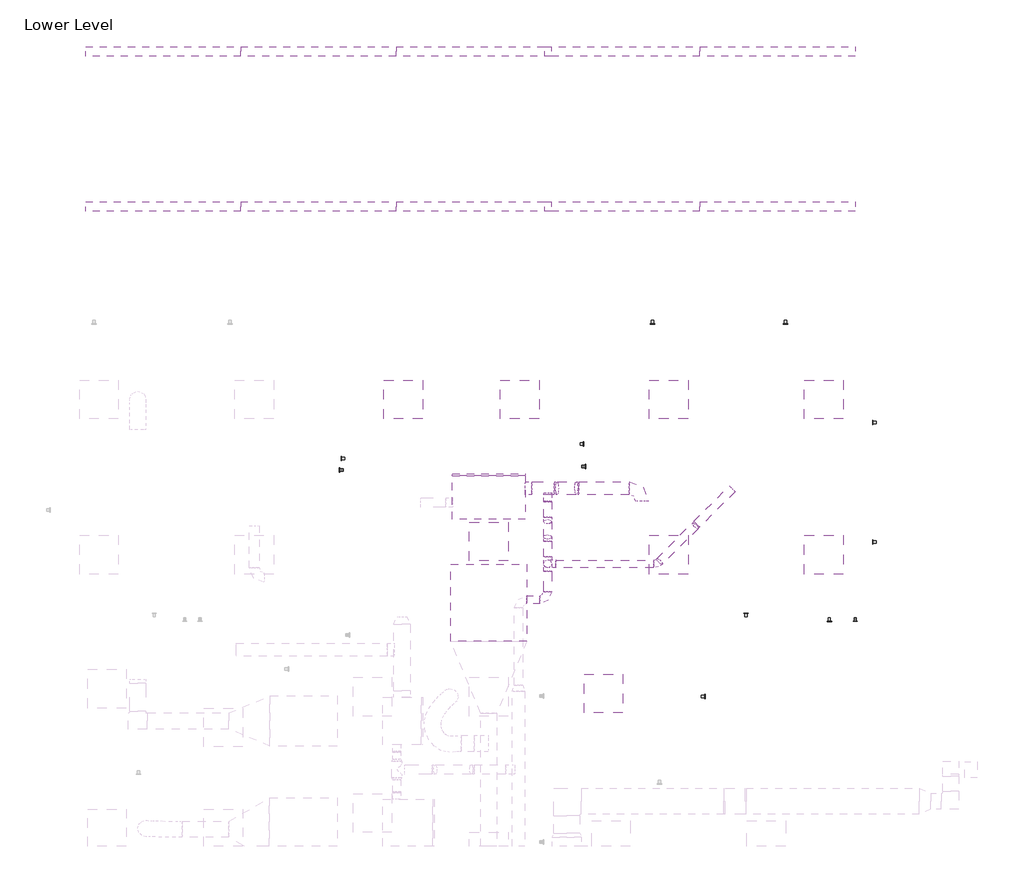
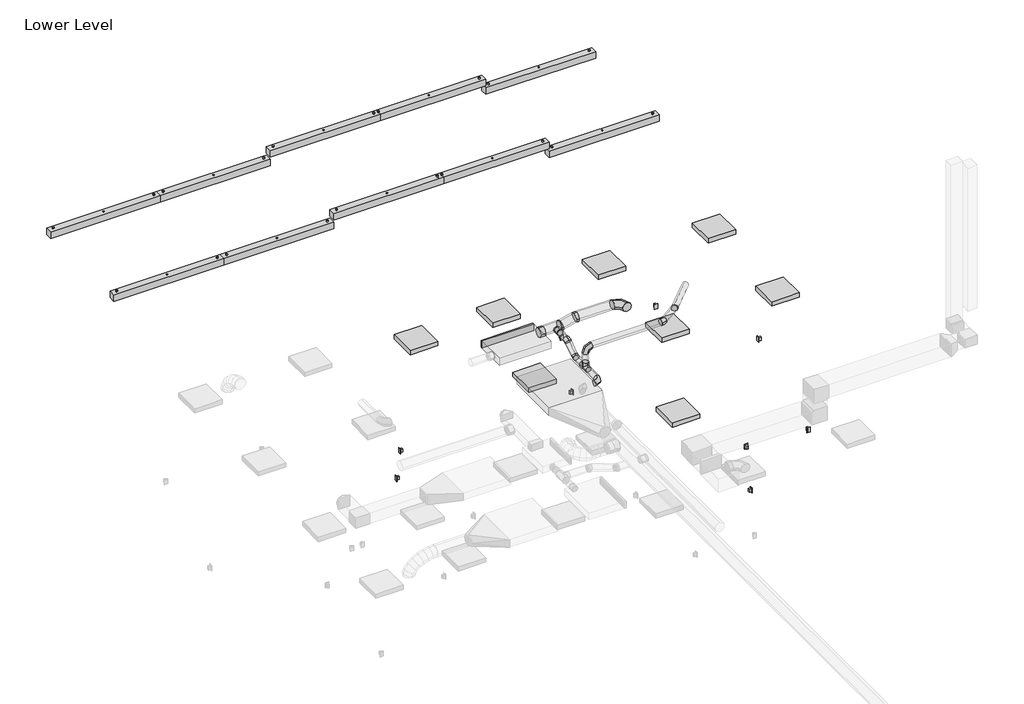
# One storey, part 4 of 4: 18 light fixtures, 14 duct segments, 13 duct fittings, 10 proxies, 3 switching devices.
"""IFC4 building model written with IfcOpenShell, lengths in millimetres."""

from ifc_helpers import new_model, si_unit, point, frame, frame_2d, origin, place, context, project, spatial, polyline, circle_curve, trimmed, segment, composite_curve, outline, extrude, transform, mapped, element, save
from components import mechanical_equipment_142123ad, duplex_receptacle_countertop_10251bba, rectangular_endcap_standard_4dcbd564, round_elbow_1_d_a253342a, round_elbow_1_d_c80420c1, round_elbow_1_d_50cd346b, round_elbow_1_d_92dd7378, round_elbow_1_d_adaedb42, round_elbow_1_d_ad049c3c, round_takeoff_standard_1127d77f, round_takeoff_standard_272bb003, round_tee_standard_ef45fe1c, suspended_fluorescent_strip_non_hosted_exterior_strip_light_cd59f7f1, troffer_corner_insert_2x2_3lamp_e67c7f8f

model = new_model("IFC4")

# Units and contexts
model_context = context("Model", 3, world=origin())
ifc_project = project(units=[si_unit("LENGTHUNIT", "METRE", prefix="MILLI")], contexts=[model_context])

# Site, building, storey
site = spatial("IfcSite", under=ifc_project)
building = spatial("IfcBuilding", under=site)
storey = spatial("IfcBuildingStorey", under=building, Name="Lower Level", Elevation=29972.0)

# Proxies
placement = place(None, origin())
mechanical_equipment_shape = mechanical_equipment_142123ad(model_context)
element("IfcBuildingElementProxy", 1, Name="DOAS Supply to Return Connection : DOAS Supply to Return Duct Connection", ObjectType="DOAS Supply to Return Connection : DOAS Supply to Return Duct Connection", at=placement, inside=storey, context=model_context, shape_type="MappedRepresentation", body=[
    mapped(mechanical_equipment_shape, transform((-12681.344811, 11699.3127622, 33121.6), x_axis=(0.0, -1.0000000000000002, 0.0), y_axis=(1.0000000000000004, 0.0, 0.0), z_axis=(0.0, 0.0, 1.0000000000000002))),
])
duplex_receptacle_countertop_shape = duplex_receptacle_countertop_10251bba(model_context)
element("IfcBuildingElementProxy", 2, Name="Duplex Receptacle : GFCI", ObjectType="Duplex Receptacle : GFCI", at=placement, inside=storey, context=model_context, shape_type="MappedRepresentation", body=[
    mapped(duplex_receptacle_countertop_shape, transform((-8256.1170491, 9811.7445005, 30429.2), x_axis=(1.0, 0.0, 0.0), y_axis=(0.0, 0.0, 1.0), z_axis=(0.0, -1.0, 0.0))),
])
element("IfcBuildingElementProxy", 3, Name="Duplex Receptacle : GFCI", ObjectType="Duplex Receptacle : GFCI", at=placement, inside=storey, context=model_context, shape_type="MappedRepresentation", body=[
    mapped(duplex_receptacle_countertop_shape, transform((-10209.8454607, 8630.2082884, 30429.2), x_axis=(0.0, 1.0, 0.0), y_axis=(0.0, 0.0, 1.0), z_axis=(1.0, 0.0, 0.0))),
])
element("IfcBuildingElementProxy", 4, Name="Duplex Receptacle : Standard", ObjectType="Duplex Receptacle : Standard", at=placement, inside=storey, context=model_context, shape_type="MappedRepresentation", body=[
    mapped(duplex_receptacle_countertop_shape, transform((-9566.6933679, 9935.5695005, 30429.2), x_axis=(-1.0, 0.0, 0.0), y_axis=(0.0, 0.0, 1.0), z_axis=(0.0, 1.0, 0.0))),
])
element("IfcBuildingElementProxy", 5, Name="Duplex Receptacle : Standard", ObjectType="Duplex Receptacle : Standard", at=placement, inside=storey, context=model_context, shape_type="MappedRepresentation", body=[
    mapped(duplex_receptacle_countertop_shape, transform((-7571.4204607, 11058.6291144, 30429.2), x_axis=(0.0, -1.0, 0.0), y_axis=(0.0, 0.0, 1.0), z_axis=(-1.0, 0.0, 0.0))),
])
element("IfcBuildingElementProxy", 6, Name="Duplex Receptacle : Standard", ObjectType="Duplex Receptacle : Standard", at=placement, inside=storey, context=model_context, shape_type="MappedRepresentation", body=[
    mapped(duplex_receptacle_countertop_shape, transform((-7571.4204607, 12931.5067489, 30429.2), x_axis=(0.0, -1.0, 0.0), y_axis=(0.0, 0.0, 1.0), z_axis=(-1.0, 0.0, 0.0))),
])
element("IfcBuildingElementProxy", 7, Name="Duplex Receptacle : Standard", ObjectType="Duplex Receptacle : Standard", at=placement, inside=storey, context=model_context, shape_type="MappedRepresentation", body=[
    mapped(duplex_receptacle_countertop_shape, transform((-8943.7287516, 14482.1695005, 30734.0), x_axis=(1.0, 0.0, 0.0), y_axis=(0.0, 0.0, 1.0), z_axis=(0.0, -1.0, 0.0))),
])
element("IfcBuildingElementProxy", 8, Name="Duplex Receptacle : Standard", ObjectType="Duplex Receptacle : Standard", at=placement, inside=storey, context=model_context, shape_type="MappedRepresentation", body=[
    mapped(duplex_receptacle_countertop_shape, transform((-11032.6434003, 14482.1695005, 30734.0), x_axis=(1.0, 0.0, 0.0), y_axis=(0.0, 0.0, 1.0), z_axis=(0.0, -1.0, 0.0))),
])
element("IfcBuildingElementProxy", 9, Name="Duplex Receptacle : Standard", ObjectType="Duplex Receptacle : Standard", at=placement, inside=storey, context=model_context, shape_type="MappedRepresentation", body=[
    mapped(duplex_receptacle_countertop_shape, transform((-12118.0204607, 12596.1305438, 30429.2), x_axis=(0.0, 1.0, 0.0), y_axis=(0.0, 0.0, 1.0), z_axis=(1.0, 0.0, 0.0))),
])
element("IfcBuildingElementProxy", 10, Name="Duplex Receptacle : Standard", ObjectType="Duplex Receptacle : Standard", at=placement, inside=storey, context=model_context, shape_type="MappedRepresentation", body=[
    mapped(duplex_receptacle_countertop_shape, transform((-15921.6704607, 12366.1582889, 30429.2), x_axis=(0.0, -1.0, 0.0), y_axis=(0.0, 0.0, 1.0), z_axis=(-1.0, 0.0, 0.0))),
])

# Duct fittings
rectangular_endcap_standard_shape = rectangular_endcap_standard_4dcbd564(model_context)
element("IfcDuctFitting", 11, ObjectType="Rectangular Endcap : Standard", at=placement, inside=storey, context=model_context, shape_type="MappedRepresentation", body=[
    mapped(rectangular_endcap_standard_shape, transform((-13605.5079607, 12098.6958297, 33121.5991366), x_axis=(0.0, 0.9999999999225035, 1.2449615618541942e-05), y_axis=(-1.0, 0.0, 0.0), z_axis=(0.0, -1.2449615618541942e-05, 0.9999999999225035))),
])
round_elbow_1_d_shape = round_elbow_1_d_a253342a(model_context)
element("IfcDuctFitting", 12, ObjectType="Round Elbow : 1 D", at=placement, inside=storey, context=model_context, shape_type="MappedRepresentation", body=[
    mapped(round_elbow_1_d_shape, transform((-11194.8892107, 11902.5127622, 33197.8), x_axis=(0.0, 1.0, 0.0), y_axis=(-1.0, 0.0, 0.0), z_axis=(0.0, 0.0, 1.0))),
])
round_elbow_1_d_2_shape = round_elbow_1_d_c80420c1(model_context)
element("IfcDuctFitting", 13, ObjectType="Round Elbow : 1 D", at=placement, inside=storey, context=model_context, shape_type="MappedRepresentation", body=[
    mapped(round_elbow_1_d_2_shape, transform((-12681.344811, 10147.8938374, 32918.4), x_axis=(1.0, 0.0, 0.0), y_axis=(0.0, 1.0, 0.0), z_axis=(0.0, 0.0, 1.0))),
])
element("IfcDuctFitting", 14, ObjectType="Round Elbow : 1 D", at=placement, inside=storey, context=model_context, shape_type="MappedRepresentation", body=[
    mapped(round_elbow_1_d_2_shape, transform((-12681.344811, 10713.399285, 33371.4045654), x_axis=(0.0, 0.0, 1.0), y_axis=(1.0, 0.0, 0.0), z_axis=(0.0, 1.0, 0.0))),
])
round_elbow_1_d_3_shape = round_elbow_1_d_50cd346b(model_context)
element("IfcDuctFitting", 15, ObjectType="Round Elbow : 1 D", at=placement, inside=storey, context=model_context, shape_type="MappedRepresentation", body=[
    mapped(round_elbow_1_d_3_shape, transform((-12681.344811, 11102.4899507, 32918.4), x_axis=(0.0, 1.0, 0.0), y_axis=(0.0, 0.0, 1.0), z_axis=(1.0, 0.0, 0.0))),
])
element("IfcDuctFitting", 16, ObjectType="Round Elbow : 1 D", at=placement, inside=storey, context=model_context, shape_type="MappedRepresentation", body=[
    mapped(round_elbow_1_d_3_shape, transform((-12681.344811, 11408.1197884, 33121.6), x_axis=(0.0, 0.832745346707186, 0.5536561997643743), y_axis=(0.0, 0.5536561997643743, -0.832745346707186), z_axis=(-1.0, 0.0, 0.0))),
])
round_elbow_1_d_4_shape = round_elbow_1_d_92dd7378(model_context)
element("IfcDuctFitting", 17, ObjectType="Round Elbow : 1 D", at=placement, inside=storey, context=model_context, shape_type="MappedRepresentation", body=[
    mapped(round_elbow_1_d_4_shape, transform((-10350.267801, 11323.544011, 33114.0593852), x_axis=(-0.7071067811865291, -0.7071067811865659, 0.0), y_axis=(0.0, 0.0, 1.0), z_axis=(-0.7071067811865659, 0.7071067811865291, 0.0))),
])
round_elbow_1_d_5_shape = round_elbow_1_d_adaedb42(model_context)
element("IfcDuctFitting", 18, ObjectType="Round Elbow : 1 D", at=placement, inside=storey, context=model_context, shape_type="MappedRepresentation", body=[
    mapped(round_elbow_1_d_5_shape, transform((-10960.412527, 10713.399285, 33371.4045654), x_axis=(1.0, 0.0, 0.0), y_axis=(0.0, 0.921396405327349, -0.3886240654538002), z_axis=(0.0, 0.3886240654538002, 0.921396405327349))),
])
round_elbow_1_d_6_shape = round_elbow_1_d_ad049c3c(model_context)
element("IfcDuctFitting", 19, ObjectType="Round Elbow : 1 D", at=placement, inside=storey, context=model_context, shape_type="MappedRepresentation", body=[
    mapped(round_elbow_1_d_6_shape, transform((-12553.9579607, 11902.5127622, 33121.6), x_axis=(1.0, 0.0, 0.0), y_axis=(0.0, 0.0, 1.0), z_axis=(0.0, -1.0, 0.0))),
])
element("IfcDuctFitting", 20, ObjectType="Round Elbow : 1 D", at=placement, inside=storey, context=model_context, shape_type="MappedRepresentation", body=[
    mapped(round_elbow_1_d_6_shape, transform((-12210.8892107, 11902.5127622, 33197.8), x_axis=(-1.0, 0.0, 0.0), y_axis=(0.0, 0.0, -1.0), z_axis=(0.0, -1.0, 0.0))),
])
round_takeoff_standard_shape = round_takeoff_standard_1127d77f(model_context)
element("IfcDuctFitting", 21, ObjectType="Round Takeoff : Standard", at=placement, inside=storey, context=model_context, shape_type="MappedRepresentation", body=[
    mapped(round_takeoff_standard_shape, transform((-13030.2079607, 11902.5127622, 33121.6), x_axis=(1.0, 0.0, 0.0), y_axis=(0.0, -1.0, 0.0), z_axis=(0.0, 0.0, -1.0))),
])
round_takeoff_standard_2_shape = round_takeoff_standard_272bb003(model_context)
element("IfcDuctFitting", 22, ObjectType="Round Takeoff : Standard", at=placement, inside=storey, context=model_context, shape_type="MappedRepresentation", body=[
    mapped(round_takeoff_standard_2_shape, transform((-12681.344811, 11800.9127622, 33121.6), x_axis=(0.0, -1.0, 0.0), y_axis=(-1.0, 0.0, 0.0), z_axis=(0.0, 0.0, -1.0))),
])
round_tee_standard_shape = round_tee_standard_ef45fe1c(model_context)
element("IfcDuctFitting", 23, ObjectType="Round Tee : Standard", at=placement, inside=storey, context=model_context, shape_type="MappedRepresentation", body=[
    mapped(round_tee_standard_shape, transform((-12681.344811, 10713.399285, 32918.4), x_axis=(0.0, 1.0, 0.0), y_axis=(0.0, 0.0, -1.0000000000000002), z_axis=(-1.0000000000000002, 0.0, 0.0))),
])

# Duct segments
element("IfcDuctSegment", 24, ObjectType="Mitered Elbows / Taps", at=placement, inside=storey, context=model_context, shape_type="SweptSolid", body=[
    extrude(outline(polyline([(-13010.2079607, 9497.2083308), (-14200.8079607, 9497.2083308), (-14200.8079607, 10705.4194302), (-13010.2079607, 10705.4194302), (-13010.2079607, 9497.2083308)])), frame((0.0, 0.0, 33041.465625), z_axis=(0.0, 0.0, 1.0), x_axis=(1.0, 0.0, 0.0)), (0.0, 0.0, 1.0), 169.0),
])
element("IfcDuctSegment", 25, ObjectType="Mitered Elbows / Taps", at=placement, inside=storey, context=model_context, shape_type="SweptSolid", body=[
    extrude(outline(polyline([(0.0, -1150.6), (0.0, 0.0), (683.6848949, 0.0), (683.6848949, -1150.6), (0.0, -1150.6)])), frame((-13030.2079607, 12098.6968244, 33041.6991366), z_axis=(0.0, -1.2449615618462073e-05, 0.9999999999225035), x_axis=(0.0, -0.9999999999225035, -1.2449615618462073e-05)), (0.0, 0.0, 1.0), 159.8),
])
element("IfcDuctSegment", 26, ObjectType="Taps / Short Radius", at=placement, inside=storey, context=model_context, shape_type="SweptSolid", body=[
    extrude(outline(composite_curve([segment(trimmed(circle_curve(frame_2d((11902.5127622, 33121.6)), 101.6), [point((12004.1127622, 33121.6))], [point((11902.5127622, 33020.0))], False, "CARTESIAN"), True, "CONTINUOUS"), segment(trimmed(circle_curve(frame_2d((11902.5127622, 33121.6)), 101.6), [point((11902.5127622, 33020.0))], [point((11800.9127622, 33121.6))], False, "CARTESIAN"), True, "CONTINUOUS"), segment(trimmed(circle_curve(frame_2d((11902.5127622, 33121.6)), 101.6), [point((11800.9127622, 33121.6))], [point((11902.5127622, 33223.2))], False, "CARTESIAN"), True, "CONTINUOUS"), segment(trimmed(circle_curve(frame_2d((11902.5127622, 33121.6)), 101.6), [point((11902.5127622, 33223.2))], [point((12004.1127622, 33121.6))], False, "CARTESIAN"), True, "CONTINUOUS")], self_intersect=False)), frame((-12928.6079607, 0.0, 0.0), z_axis=(1.0, 0.0, 0.0), x_axis=(0.0, 1.0, 0.0)), (0.0, 0.0, 1.0), 352.3549939),
])
element("IfcDuctSegment", 27, ObjectType="Taps / Short Radius", at=placement, inside=storey, context=model_context, shape_type="SweptSolid", body=[
    extrude(outline(composite_curve([segment(trimmed(circle_curve(frame_2d((32918.4, -12681.344811)), 63.5), [point((32918.4, -12744.844811))], [point((32854.9, -12681.344811))], False, "CARTESIAN"), True, "CONTINUOUS"), segment(trimmed(circle_curve(frame_2d((32918.4, -12681.344811)), 63.5), [point((32854.9, -12681.344811))], [point((32918.4, -12617.844811))], False, "CARTESIAN"), True, "CONTINUOUS"), segment(trimmed(circle_curve(frame_2d((32918.4, -12681.344811)), 63.5), [point((32918.4, -12617.844811))], [point((32981.9, -12681.344811))], False, "CARTESIAN"), True, "CONTINUOUS"), segment(trimmed(circle_curve(frame_2d((32918.4, -12681.344811)), 63.5), [point((32981.9, -12681.344811))], [point((32918.4, -12744.844811))], False, "CARTESIAN"), True, "CONTINUOUS")], self_intersect=False)), frame((0.0, 10274.8938374, 0.0), z_axis=(0.0, 1.0, 0.0), x_axis=(0.0, 0.0, 1.0)), (0.0, 0.0, 1.0), 324.2054476),
])
element("IfcDuctSegment", 28, ObjectType="Taps / Short Radius", at=placement, inside=storey, context=model_context, shape_type="SweptSolid", body=[
    extrude(outline(composite_curve([segment(trimmed(circle_curve(frame_2d((10147.8938374, 32918.4)), 63.5), [point((10211.3938374, 32918.4))], [point((10147.8938374, 32854.9))], False, "CARTESIAN"), True, "CONTINUOUS"), segment(trimmed(circle_curve(frame_2d((10147.8938374, 32918.4)), 63.5), [point((10147.8938374, 32854.9))], [point((10084.3938374, 32918.4))], False, "CARTESIAN"), True, "CONTINUOUS"), segment(trimmed(circle_curve(frame_2d((10147.8938374, 32918.4)), 63.5), [point((10084.3938374, 32918.4))], [point((10147.8938374, 32981.9))], False, "CARTESIAN"), True, "CONTINUOUS"), segment(trimmed(circle_curve(frame_2d((10147.8938374, 32918.4)), 63.5), [point((10147.8938374, 32981.9))], [point((10211.3938374, 32918.4))], False, "CARTESIAN"), True, "CONTINUOUS")], self_intersect=False)), frame((-13011.544811, 0.0, 0.0), z_axis=(1.0, 0.0, 0.0), x_axis=(0.0, 1.0, 0.0)), (0.0, 0.0, 1.0), 203.2),
])
element("IfcDuctSegment", 29, ObjectType="Taps / Short Radius", at=placement, inside=storey, context=model_context, shape_type="SweptSolid", body=[
    extrude(outline(composite_curve([segment(trimmed(circle_curve(frame_2d((32918.4, -12681.344811)), 63.5), [point((32918.4, -12617.844811))], [point((32981.9, -12681.344811))], False, "CARTESIAN"), True, "CONTINUOUS"), segment(trimmed(circle_curve(frame_2d((32918.4, -12681.344811)), 63.5), [point((32981.9, -12681.344811))], [point((32918.4, -12744.844811))], False, "CARTESIAN"), True, "CONTINUOUS"), segment(trimmed(circle_curve(frame_2d((32918.4, -12681.344811)), 63.5), [point((32918.4, -12744.844811))], [point((32854.9, -12681.344811))], False, "CARTESIAN"), True, "CONTINUOUS"), segment(trimmed(circle_curve(frame_2d((32918.4, -12681.344811)), 63.5), [point((32854.9, -12681.344811))], [point((32918.4, -12617.844811))], False, "CARTESIAN"), True, "CONTINUOUS")], self_intersect=False)), frame((0.0, 10827.699285, 0.0), z_axis=(0.0, 1.0, 0.0), x_axis=(0.0, 0.0, 1.0)), (0.0, 0.0, 1.0), 236.4250861),
])
element("IfcDuctSegment", 30, ObjectType="Taps / Short Radius", at=placement, inside=storey, context=model_context, shape_type="SweptSolid", body=[
    extrude(outline(composite_curve([segment(trimmed(circle_curve(frame_2d((0.0, 63.4999999)), 63.5), [point((63.5, 63.4999999))], [point((0.0, 0.0))], False, "CARTESIAN"), True, "CONTINUOUS"), segment(trimmed(circle_curve(frame_2d((0.0, 63.4999999)), 63.5), [point((0.0, 0.0))], [point((-63.5, 63.4999999))], False, "CARTESIAN"), True, "CONTINUOUS"), segment(trimmed(circle_curve(frame_2d((0.0, 63.4999999)), 63.5), [point((-63.5, 63.4999999))], [point((0.0, 126.9999999))], False, "CARTESIAN"), True, "CONTINUOUS"), segment(trimmed(circle_curve(frame_2d((0.0, 63.4999999)), 63.5), [point((0.0, 126.9999999))], [point((63.5, 63.4999999))], False, "CARTESIAN"), True, "CONTINUOUS")], self_intersect=False)), frame((-12681.344811, 11099.2815399, 32992.5206705), z_axis=(1.4799828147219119e-12, 0.8327453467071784, 0.5536561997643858), x_axis=(1.0, -1.2292389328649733e-12, 0.0)), (0.0, 0.0, 1.0), 290.2836058),
])
element("IfcDuctSegment", 31, ObjectType="Taps / Short Radius", at=placement, inside=storey, context=model_context, shape_type="SweptSolid", body=[
    extrude(outline(composite_curve([segment(trimmed(circle_curve(frame_2d((33121.6, -12681.344811)), 63.5), [point((33121.6, -12617.844811))], [point((33185.1, -12681.344811))], False, "CARTESIAN"), True, "CONTINUOUS"), segment(trimmed(circle_curve(frame_2d((33121.6, -12681.344811)), 63.5), [point((33185.1, -12681.344811))], [point((33121.6, -12744.844811))], False, "CARTESIAN"), True, "CONTINUOUS"), segment(trimmed(circle_curve(frame_2d((33121.6, -12681.344811)), 63.5), [point((33121.6, -12744.844811))], [point((33058.1, -12681.344811))], False, "CARTESIAN"), True, "CONTINUOUS"), segment(trimmed(circle_curve(frame_2d((33121.6, -12681.344811)), 63.5), [point((33058.1, -12681.344811))], [point((33121.6, -12617.844811))], False, "CARTESIAN"), True, "CONTINUOUS")], self_intersect=False)), frame((0.0, 11446.4853679, 0.0), z_axis=(0.0, 1.0, 0.0), x_axis=(0.0, 0.0, 1.0)), (0.0, 0.0, 1.0), 240.1273943),
])
element("IfcDuctSegment", 32, ObjectType="Taps / Short Radius", at=placement, inside=storey, context=model_context, shape_type="SweptSolid", body=[
    extrude(outline(composite_curve([segment(trimmed(circle_curve(frame_2d((-12681.344811, 10713.399285)), 63.5), [point((-12681.344811, 10649.899285))], [point((-12744.844811, 10713.399285))], False, "CARTESIAN"), True, "CONTINUOUS"), segment(trimmed(circle_curve(frame_2d((-12681.344811, 10713.399285)), 63.5), [point((-12744.844811, 10713.399285))], [point((-12681.344811, 10776.899285))], False, "CARTESIAN"), True, "CONTINUOUS"), segment(trimmed(circle_curve(frame_2d((-12681.344811, 10713.399285)), 63.5), [point((-12681.344811, 10776.899285))], [point((-12617.844811, 10713.399285))], False, "CARTESIAN"), True, "CONTINUOUS"), segment(trimmed(circle_curve(frame_2d((-12681.344811, 10713.399285)), 63.5), [point((-12617.844811, 10713.399285))], [point((-12681.344811, 10649.899285))], False, "CARTESIAN"), True, "CONTINUOUS")], self_intersect=False)), frame((0.0, 0.0, 33032.7), z_axis=(0.0, 0.0, 1.0), x_axis=(1.0, 0.0, 0.0)), (0.0, 0.0, 1.0), 211.7045654),
])
element("IfcDuctSegment", 33, ObjectType="Taps / Short Radius", at=placement, inside=storey, context=model_context, shape_type="SweptSolid", body=[
    extrude(outline(composite_curve([segment(trimmed(circle_curve(frame_2d((0.0, -63.5)), 63.5), [point((-63.5, -63.5))], [point((0.0, 0.0))], False, "CARTESIAN"), True, "CONTINUOUS"), segment(trimmed(circle_curve(frame_2d((0.0, -63.5)), 63.5), [point((0.0, 0.0))], [point((63.5, -63.5))], False, "CARTESIAN"), True, "CONTINUOUS"), segment(trimmed(circle_curve(frame_2d((0.0, -63.5)), 63.5), [point((63.5, -63.5))], [point((0.0, -127.0))], False, "CARTESIAN"), True, "CONTINUOUS"), segment(trimmed(circle_curve(frame_2d((0.0, -63.5)), 63.5), [point((0.0, -127.0))], [point((-63.5, -63.5))], False, "CARTESIAN"), True, "CONTINUOUS")], self_intersect=False)), frame((-10337.1616074, 11336.6502046, 33050.5593852), z_axis=(0.7071067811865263, 0.7071067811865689, 0.0), x_axis=(0.7071067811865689, -0.7071067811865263, 0.0)), (0.0, 0.0, 1.0), 785.0995942),
])
element("IfcDuctSegment", 34, ObjectType="Taps / Short Radius", at=placement, inside=storey, context=model_context, shape_type="SweptSolid", body=[
    extrude(outline(composite_curve([segment(trimmed(circle_curve(frame_2d((0.0, 63.5000001)), 63.5), [point((17.4497182, 124.5553629))], [point((61.0553628, 46.0502819))], False, "CARTESIAN"), True, "CONTINUOUS"), segment(trimmed(circle_curve(frame_2d((0.0, 63.5000001)), 63.5), [point((61.0553628, 46.0502819))], [point((-17.4497182, 2.4446372))], False, "CARTESIAN"), True, "CONTINUOUS"), segment(trimmed(circle_curve(frame_2d((0.0, 63.5000001)), 63.5), [point((-17.4497182, 2.4446372))], [point((-61.0553629, 80.9497183))], False, "CARTESIAN"), True, "CONTINUOUS"), segment(trimmed(circle_curve(frame_2d((0.0, 63.5000001)), 63.5), [point((-61.0553629, 80.9497183))], [point((17.4497182, 124.5553629))], False, "CARTESIAN"), True, "CONTINUOUS")], self_intersect=False)), frame((-10362.8273199, 11286.306864, 33060.8480331), z_axis=(-0.6776125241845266, -0.6776125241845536, 0.28580156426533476), x_axis=(0.735419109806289, -0.6243497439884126, 0.2633365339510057)), (0.0, 0.0, 1.0), 826.2248131),
])
element("IfcDuctSegment", 35, ObjectType="Taps / Short Radius", at=placement, inside=storey, context=model_context, shape_type="SweptSolid", body=[
    extrude(outline(composite_curve([segment(trimmed(circle_curve(frame_2d((10713.399285, 33371.4045654)), 63.5), [point((10738.0769132, 33429.9132371))], [point((10771.9079568, 33346.7269372))], False, "CARTESIAN"), True, "CONTINUOUS"), segment(trimmed(circle_curve(frame_2d((10713.399285, 33371.4045654)), 63.5), [point((10771.9079568, 33346.7269372))], [point((10688.7216569, 33312.8958937))], False, "CARTESIAN"), True, "CONTINUOUS"), segment(trimmed(circle_curve(frame_2d((10713.399285, 33371.4045654)), 63.5), [point((10688.7216569, 33312.8958937))], [point((10654.8906133, 33396.0821936))], False, "CARTESIAN"), True, "CONTINUOUS"), segment(trimmed(circle_curve(frame_2d((10713.399285, 33371.4045654)), 63.5), [point((10654.8906133, 33396.0821936))], [point((10738.0769132, 33429.9132371))], False, "CARTESIAN"), True, "CONTINUOUS")], self_intersect=False)), frame((-12554.344811, 0.0, 0.0), z_axis=(1.0, 0.0, 0.0), x_axis=(0.0, 1.0, 0.0)), (0.0, 0.0, 1.0), 1538.258983),
])
element("IfcDuctSegment", 36, ObjectType="Taps / Short Radius", at=placement, inside=storey, context=model_context, shape_type="SweptSolid", body=[
    extrude(outline(composite_curve([segment(trimmed(circle_curve(frame_2d((11902.5127622, 33197.8)), 101.6), [point((12004.1127622, 33197.8))], [point((11902.5127622, 33096.2))], False, "CARTESIAN"), True, "CONTINUOUS"), segment(trimmed(circle_curve(frame_2d((11902.5127622, 33197.8)), 101.6), [point((11902.5127622, 33096.2))], [point((11800.9127622, 33197.8))], False, "CARTESIAN"), True, "CONTINUOUS"), segment(trimmed(circle_curve(frame_2d((11902.5127622, 33197.8)), 101.6), [point((11800.9127622, 33197.8))], [point((11902.5127622, 33299.4))], False, "CARTESIAN"), True, "CONTINUOUS"), segment(trimmed(circle_curve(frame_2d((11902.5127622, 33197.8)), 101.6), [point((11902.5127622, 33299.4))], [point((12004.1127622, 33197.8))], False, "CARTESIAN"), True, "CONTINUOUS")], self_intersect=False)), frame((-12188.5942046, 0.0, 0.0), z_axis=(1.0, 0.0, 0.0), x_axis=(0.0, 1.0, 0.0)), (0.0, 0.0, 1.0), 790.5049939),
])
element("IfcDuctSegment", 37, ObjectType="Taps / Short Radius", at=placement, inside=storey, context=model_context, shape_type="SweptSolid", body=[
    extrude(outline(composite_curve([segment(trimmed(circle_curve(frame_2d((0.0, 101.6)), 101.6), [point((0.0, 0.0))], [point((-101.6, 101.6))], False, "CARTESIAN"), True, "CONTINUOUS"), segment(trimmed(circle_curve(frame_2d((0.0, 101.6)), 101.6), [point((-101.6, 101.6))], [point((0.0, 203.2))], False, "CARTESIAN"), True, "CONTINUOUS"), segment(trimmed(circle_curve(frame_2d((0.0, 101.6)), 101.6), [point((0.0, 203.2))], [point((101.6, 101.6))], False, "CARTESIAN"), True, "CONTINUOUS"), segment(trimmed(circle_curve(frame_2d((0.0, 101.6)), 101.6), [point((101.6, 101.6))], [point((0.0, 0.0))], False, "CARTESIAN"), True, "CONTINUOUS")], self_intersect=False)), frame((-12532.1933605, 11800.9127622, 33126.4341988), z_axis=(0.976209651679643, 0.0, 0.2168287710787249), x_axis=(0.2168287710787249, 0.0, -0.976209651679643)), (0.0, 0.0, 1.0), 306.8393651),
])

# Light fixtures
suspended_fluorescent_strip_non_hosted_exterior_strip_light_shape = suspended_fluorescent_strip_non_hosted_exterior_strip_light_cd59f7f1(model_context)
element("IfcLightFixture", 38, ObjectType="Suspended Fluorescent Strip - Non-Hosted : Exterior Strip Light 1x8 - 120V Normal", at=placement, inside=storey, context=model_context, shape_type="MappedRepresentation", body=[
    mapped(suspended_fluorescent_strip_non_hosted_exterior_strip_light_shape, transform((-18720.6103906, 16325.069275, 33629.6), x_axis=(1.0, 0.0, 0.0), y_axis=(0.0, 1.0, 0.0), z_axis=(0.0, 0.0, 1.0))),
])
element("IfcLightFixture", 39, ObjectType="Suspended Fluorescent Strip - Non-Hosted : Exterior Strip Light 1x8 - 120V Normal", at=placement, inside=storey, context=model_context, shape_type="MappedRepresentation", body=[
    mapped(suspended_fluorescent_strip_non_hosted_exterior_strip_light_shape, transform((-18720.6103906, 18763.469275, 33629.6), x_axis=(1.0, 0.0, 0.0), y_axis=(0.0, 1.0, 0.0), z_axis=(0.0, 0.0, 1.0))),
])
element("IfcLightFixture", 40, ObjectType="Suspended Fluorescent Strip - Non-Hosted : Exterior Strip Light 1x8 - 120V Normal", at=placement, inside=storey, context=model_context, shape_type="MappedRepresentation", body=[
    mapped(suspended_fluorescent_strip_non_hosted_exterior_strip_light_shape, transform((-16282.2103906, 16325.069275, 33629.6), x_axis=(1.0, 0.0, 0.0), y_axis=(0.0, 1.0, 0.0), z_axis=(0.0, 0.0, 1.0))),
])
element("IfcLightFixture", 41, ObjectType="Suspended Fluorescent Strip - Non-Hosted : Exterior Strip Light 1x8 - 120V Normal", at=placement, inside=storey, context=model_context, shape_type="MappedRepresentation", body=[
    mapped(suspended_fluorescent_strip_non_hosted_exterior_strip_light_shape, transform((-16282.2103906, 18763.469275, 33629.6), x_axis=(1.0, 0.0, 0.0), y_axis=(0.0, 1.0, 0.0), z_axis=(0.0, 0.0, 1.0))),
])
element("IfcLightFixture", 42, ObjectType="Suspended Fluorescent Strip - Non-Hosted : Exterior Strip Light 1x8 - 120V Normal", at=placement, inside=storey, context=model_context, shape_type="MappedRepresentation", body=[
    mapped(suspended_fluorescent_strip_non_hosted_exterior_strip_light_shape, transform((-13843.8103906, 16325.069275, 33832.8), x_axis=(1.0, 0.0, 0.0), y_axis=(0.0, 1.0, 0.0), z_axis=(0.0, 0.0, 1.0))),
])
element("IfcLightFixture", 43, ObjectType="Suspended Fluorescent Strip - Non-Hosted : Exterior Strip Light 1x8 - 120V Normal", at=placement, inside=storey, context=model_context, shape_type="MappedRepresentation", body=[
    mapped(suspended_fluorescent_strip_non_hosted_exterior_strip_light_shape, transform((-13843.8103906, 18763.469275, 33832.8), x_axis=(1.0, 0.0, 0.0), y_axis=(0.0, 1.0, 0.0), z_axis=(0.0, 0.0, 1.0))),
])
element("IfcLightFixture", 44, ObjectType="Suspended Fluorescent Strip - Non-Hosted : Exterior Strip Light 1x8 - 120V Normal", at=placement, inside=storey, context=model_context, shape_type="MappedRepresentation", body=[
    mapped(suspended_fluorescent_strip_non_hosted_exterior_strip_light_shape, transform((-11507.0103906, 16325.069275, 33832.8), x_axis=(1.0, 0.0, 0.0), y_axis=(0.0, 1.0, 0.0), z_axis=(0.0, 0.0, 1.0))),
])
element("IfcLightFixture", 45, ObjectType="Suspended Fluorescent Strip - Non-Hosted : Exterior Strip Light 1x8 - 120V Normal", at=placement, inside=storey, context=model_context, shape_type="MappedRepresentation", body=[
    mapped(suspended_fluorescent_strip_non_hosted_exterior_strip_light_shape, transform((-11507.0103906, 18763.469275, 33832.8), x_axis=(1.0, 0.0, 0.0), y_axis=(0.0, 1.0, 0.0), z_axis=(0.0, 0.0, 1.0))),
])
element("IfcLightFixture", 46, ObjectType="Suspended Fluorescent Strip - Non-Hosted : Exterior Strip Light 1x8 - 120V Normal", at=placement, inside=storey, context=model_context, shape_type="MappedRepresentation", body=[
    mapped(suspended_fluorescent_strip_non_hosted_exterior_strip_light_shape, transform((-9068.6103906, 16325.069275, 33629.6), x_axis=(1.0, 0.0, 0.0), y_axis=(0.0, 1.0, 0.0), z_axis=(0.0, 0.0, 1.0))),
])
element("IfcLightFixture", 47, ObjectType="Suspended Fluorescent Strip - Non-Hosted : Exterior Strip Light 1x8 - 120V Normal", at=placement, inside=storey, context=model_context, shape_type="MappedRepresentation", body=[
    mapped(suspended_fluorescent_strip_non_hosted_exterior_strip_light_shape, transform((-9068.6103906, 18763.469275, 33629.6), x_axis=(1.0, 0.0, 0.0), y_axis=(0.0, 1.0, 0.0), z_axis=(0.0, 0.0, 1.0))),
])
troffer_corner_insert_2x2_3lamp_shape = troffer_corner_insert_2x2_3lamp_e67c7f8f(model_context)
element("IfcLightFixture", 48, ObjectType="Troffer Corner Insert : 2x2 3Lamp", at=placement, inside=storey, context=model_context, shape_type="MappedRepresentation", body=[
    mapped(troffer_corner_insert_2x2_3lamp_shape, transform((-11804.4892107, 8675.0945005, 30276.8), x_axis=(1.0, 0.0, 0.0), y_axis=(0.0, 1.0, 0.0), z_axis=(0.0, 0.0, 1.0))),
])
element("IfcLightFixture", 49, ObjectType="Troffer Corner Insert : 2x2 3Lamp", at=placement, inside=storey, context=model_context, shape_type="MappedRepresentation", body=[
    mapped(troffer_corner_insert_2x2_3lamp_shape, transform((-10779.7579607, 10856.3195005, 30581.6), x_axis=(1.0, 0.0, 0.0), y_axis=(0.0, 1.0, 0.0), z_axis=(0.0, 0.0, 1.0))),
])
element("IfcLightFixture", 50, ObjectType="Troffer Corner Insert : 2x2 3Lamp", at=placement, inside=storey, context=model_context, shape_type="MappedRepresentation", body=[
    mapped(troffer_corner_insert_2x2_3lamp_shape, transform((-10779.7579607, 13294.7195005, 30581.6), x_axis=(1.0, 0.0, 0.0), y_axis=(0.0, 1.0, 0.0), z_axis=(0.0, 0.0, 1.0))),
])
element("IfcLightFixture", 51, ObjectType="Troffer Corner Insert : 2x2 3Lamp", at=placement, inside=storey, context=model_context, shape_type="MappedRepresentation", body=[
    mapped(troffer_corner_insert_2x2_3lamp_shape, transform((-8341.3579607, 13294.7195005, 30581.6), x_axis=(1.0, 0.0, 0.0), y_axis=(0.0, 1.0, 0.0), z_axis=(0.0, 0.0, 1.0))),
])
element("IfcLightFixture", 52, ObjectType="Troffer Corner Insert : 2x2 3Lamp", at=placement, inside=storey, context=model_context, shape_type="MappedRepresentation", body=[
    mapped(troffer_corner_insert_2x2_3lamp_shape, transform((-8341.3579607, 10856.3195005, 30581.6), x_axis=(1.0, 0.0, 0.0), y_axis=(0.0, 1.0, 0.0), z_axis=(0.0, 0.0, 1.0))),
])
element("IfcLightFixture", 53, ObjectType="Troffer Corner Insert : 2x2 3Lamp", at=placement, inside=storey, context=model_context, shape_type="MappedRepresentation", body=[
    mapped(troffer_corner_insert_2x2_3lamp_shape, transform((-13605.5079607, 11064.2820005, 30276.8), x_axis=(1.0, 0.0, 0.0), y_axis=(0.0, 1.0, 0.0), z_axis=(0.0, 0.0, 1.0))),
])
element("IfcLightFixture", 54, ObjectType="Troffer Corner Insert : 2x2 3Lamp", at=placement, inside=storey, context=model_context, shape_type="MappedRepresentation", body=[
    mapped(troffer_corner_insert_2x2_3lamp_shape, transform((-14950.1204607, 13294.7195005, 30276.8), x_axis=(1.0, 0.0, 0.0), y_axis=(0.0, 1.0, 0.0), z_axis=(0.0, 0.0, 1.0))),
])
element("IfcLightFixture", 55, ObjectType="Troffer Corner Insert : 2x2 3Lamp", at=placement, inside=storey, context=model_context, shape_type="MappedRepresentation", body=[
    mapped(troffer_corner_insert_2x2_3lamp_shape, transform((-13121.3204607, 13294.7195005, 30276.8), x_axis=(1.0, 0.0, 0.0), y_axis=(0.0, 1.0, 0.0), z_axis=(0.0, 0.0, 1.0))),
])

# Switching devices
element("IfcSwitchingDevice", 56, ObjectType="Lighting Switches : Single Pole", at=placement, inside=storey, context=model_context, shape_type="MappedRepresentation", body=[
    mapped(duplex_receptacle_countertop_shape, transform((-12091.0329607, 12243.4448296, 31191.2), x_axis=(0.0, 1.0, 0.0), y_axis=(0.0, 0.0, 1.0), z_axis=(1.0, 0.0, 0.0))),
])
element("IfcSwitchingDevice", 57, ObjectType="Lighting Switches : Single Pole", at=placement, inside=storey, context=model_context, shape_type="MappedRepresentation", body=[
    mapped(duplex_receptacle_countertop_shape, transform((-15948.6579607, 12189.8195005, 31191.2), x_axis=(0.0, -1.0, 0.0), y_axis=(0.0, 0.0, 1.0), z_axis=(-1.0, 0.0, 0.0))),
])
element("IfcSwitchingDevice", 58, ObjectType="Lighting Switches : Single Pole", at=placement, inside=storey, context=model_context, shape_type="MappedRepresentation", body=[
    mapped(duplex_receptacle_countertop_shape, transform((-7848.5670672, 9811.7445005, 31191.2), x_axis=(1.0, 0.0, 0.0), y_axis=(0.0, 0.0, 1.0), z_axis=(0.0, -1.0, 0.0))),
])

save(model, "model.ifc")
